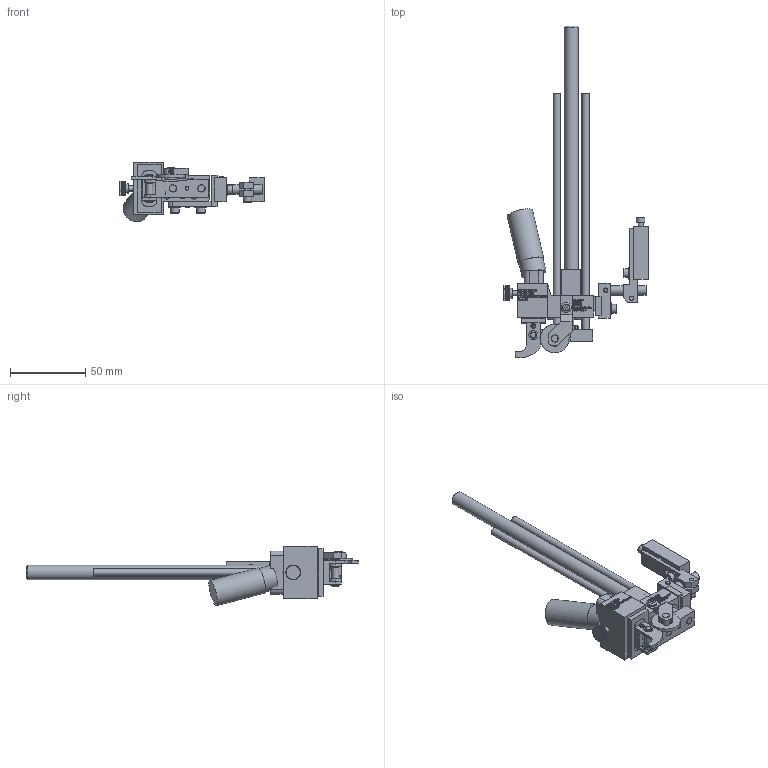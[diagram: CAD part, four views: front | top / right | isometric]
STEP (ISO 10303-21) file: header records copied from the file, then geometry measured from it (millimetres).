
FILE_DESCRIPTION((''),'2;1');
FILE_NAME('C:\Documents and Settings\Ron\My Documents\Inventor\Sprinter Drawing\Machines in Inventor\Model 28\Type\Ext Str\E4\Brkt\Ret\Model 28 E4 Type Ret w brkt.stp','2009-01-26T08:02:29',('Ron'),(''),'Autodesk Inventor 2008','Autodesk Inventor 2008','');
FILE_SCHEMA(('AUTOMOTIVE_DESIGN { 1 0 10303 214 1 1 1 1 }'));
Length unit declared in the file: inch
Products named in the file (1): Model 28 E4 Type Ret w brkt
Bounding box: 95.97 x 220.87 x 39.63 mm (x, y, z)
Volume: 78112.3 mm3; surface area: 42561.8 mm2
Topology: 34 solids, 34 shells, 4255 faces, 11612 edges, 7710 vertices
Faces by surface type: plane 2502, bspline 1352, cylinder 318, cone 69, torus 14
Full cylindrical faces by diameter (mm): 2.337 x1, 2.845 x3, 2.946 x2, 3.048 x1, 3.175 x2, 3.454 x1, 3.505 x7, 3.658 x1, 3.876 x1, 3.962 x8, 3.988 x1, 4.064 x1, 4.166 x2, 4.648 x2, 4.699 x1, 4.75 x1, 4.763 x2, 4.788 x1, 5.41 x2, 5.74 x6, 6.096 x1, 6.325 x2, 6.35 x2, 6.655 x1, 7.239 x1, 7.925 x4, 7.938 x1, 8.128 x1, 9.525 x1, 10.922 x1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
Entity records: 147061 total; most frequent: CARTESIAN_POINT 47044, ORIENTED_EDGE 22718, DIRECTION 15362, EDGE_CURVE 11359, VECTOR 7668, LINE 7668, VERTEX_POINT 7627, EDGE_LOOP 4780
